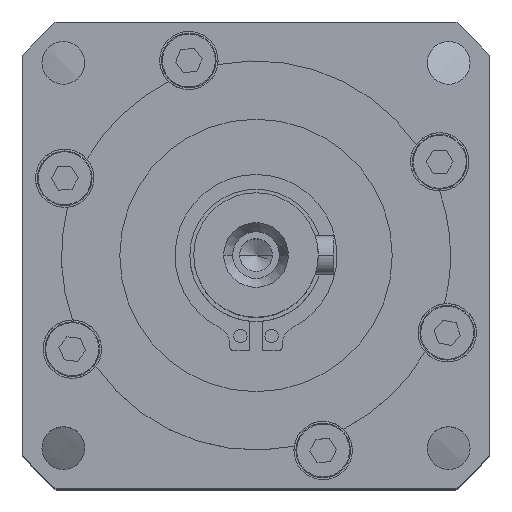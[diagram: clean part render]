
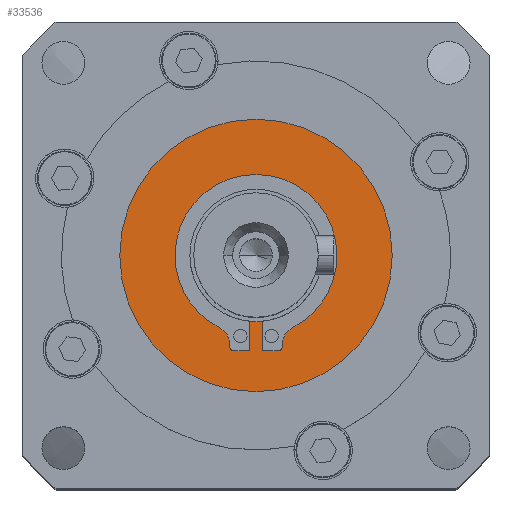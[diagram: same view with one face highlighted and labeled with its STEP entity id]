
A CAD part, top view. The second image highlights one B-rep face of the part: STEP entity #33536.
In plain terms, the highlighted planar face has unit normal (0, 0, 1).
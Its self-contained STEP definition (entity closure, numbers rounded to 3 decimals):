
#525 = EDGE_CURVE ( 'NONE', #19043, #41867, #17624, .T. ) ;
#557 = CARTESIAN_POINT ( 'NONE',  ( -3.35, -11.757, -1. ) ) ;
#741 = VERTEX_POINT ( 'NONE', #804 ) ;
#804 = CARTESIAN_POINT ( 'NONE',  ( 0.85, -12.257, -1. ) ) ;
#1020 = VERTEX_POINT ( 'NONE', #5918 ) ;
#1364 = CIRCLE ( 'NONE', #41935, 2.5 ) ;
#1608 = AXIS2_PLACEMENT_3D ( 'NONE', #32688, #12572, #36069 ) ;
#2597 = VECTOR ( 'NONE', #11955, 1000. ) ;
#2739 = VERTEX_POINT ( 'NONE', #32837 ) ;
#3038 = LINE ( 'NONE', #29043, #20909 ) ;
#3248 = AXIS2_PLACEMENT_3D ( 'NONE', #26736, #6629, #30116 ) ;
#3735 = LINE ( 'NONE', #28515, #28391 ) ;
#4142 = AXIS2_PLACEMENT_3D ( 'NONE', #24686, #4586, #28055 ) ;
#4586 = DIRECTION ( 'NONE',  ( 0., 0., 1. ) ) ;
#5154 = CARTESIAN_POINT ( 'NONE',  ( 0., -12.257, -1. ) ) ;
#5826 = CARTESIAN_POINT ( 'NONE',  ( -17.5, 0., -1. ) ) ;
#5918 = CARTESIAN_POINT ( 'NONE',  ( 0.85, -8.457, -1. ) ) ;
#6347 = EDGE_CURVE ( 'NONE', #16306, #1020, #33229, .T. ) ;
#6629 = DIRECTION ( 'NONE',  ( 0., 0., 1. ) ) ;
#7020 = FACE_OUTER_BOUND ( 'NONE', #35533, .T. ) ;
#7192 = DIRECTION ( 'NONE',  ( 1., 0., 0. ) ) ;
#8446 = PLANE ( 'NONE',  #11639 ) ;
#8504 = EDGE_CURVE ( 'NONE', #41867, #27138, #16314, .T. ) ;
#9342 = CARTESIAN_POINT ( 'NONE',  ( 0., 0., -1. ) ) ;
#9479 = EDGE_CURVE ( 'NONE', #9493, #20783, #19956, .T. ) ;
#9493 = VERTEX_POINT ( 'NONE', #5826 ) ;
#10163 = AXIS2_PLACEMENT_3D ( 'NONE', #13099, #36590, #16500 ) ;
#10489 = ORIENTED_EDGE ( 'NONE', *, *, #31697, .F. ) ;
#10577 = EDGE_CURVE ( 'NONE', #12688, #20540, #3038, .T. ) ;
#11405 = EDGE_LOOP ( 'NONE', ( #29950, #29223, #29712, #33870, #42110, #35805, #36207, #23975, #40214, #21197, #25857, #30477, #23327, #10489 ) ) ;
#11415 = VECTOR ( 'NONE', #25363, 1000. ) ;
#11639 = AXIS2_PLACEMENT_3D ( 'NONE', #38436, #31901, #11820 ) ;
#11820 = DIRECTION ( 'NONE',  ( -1., 0., 0. ) ) ;
#11955 = DIRECTION ( 'NONE',  ( 0., 1., 0. ) ) ;
#12089 = CARTESIAN_POINT ( 'NONE',  ( 5.85, -11.497, -1. ) ) ;
#12344 = ORIENTED_EDGE ( 'NONE', *, *, #9479, .T. ) ;
#12572 = DIRECTION ( 'NONE',  ( 0., 0., 1. ) ) ;
#12587 = DIRECTION ( 'NONE',  ( 0., 0., 1. ) ) ;
#12688 = VERTEX_POINT ( 'NONE', #31674 ) ;
#12737 = DIRECTION ( 'NONE',  ( -1., 0., 0. ) ) ;
#13099 = CARTESIAN_POINT ( 'NONE',  ( 2.85, -11.757, -1. ) ) ;
#13811 = CIRCLE ( 'NONE', #3248, 10.4 ) ;
#14190 = AXIS2_PLACEMENT_3D ( 'NONE', #32704, #12587, #36085 ) ;
#14367 = DIRECTION ( 'NONE',  ( 0., 0., -1. ) ) ;
#14968 = AXIS2_PLACEMENT_3D ( 'NONE', #12089, #35586, #15508 ) ;
#15278 = CARTESIAN_POINT ( 'NONE',  ( -2.85, -11.757, -1. ) ) ;
#15290 = DIRECTION ( 'NONE',  ( 1., 0., 0. ) ) ;
#15508 = DIRECTION ( 'NONE',  ( -1., 0., 0. ) ) ;
#15908 = CARTESIAN_POINT ( 'NONE',  ( 0., 0., -1. ) ) ;
#16306 = VERTEX_POINT ( 'NONE', #41902 ) ;
#16314 = CIRCLE ( 'NONE', #4142, 10.4 ) ;
#16500 = DIRECTION ( 'NONE',  ( -1., 0., 0. ) ) ;
#17282 = CIRCLE ( 'NONE', #14190, 17.5 ) ;
#17624 = CIRCLE ( 'NONE', #21017, 10.4 ) ;
#18468 = CARTESIAN_POINT ( 'NONE',  ( 10.4, 0., -1. ) ) ;
#18665 = DIRECTION ( 'NONE',  ( -1., 0., 0. ) ) ;
#18739 = ORIENTED_EDGE ( 'NONE', *, *, #32697, .T. ) ;
#19043 = VERTEX_POINT ( 'NONE', #18468 ) ;
#19287 = DIRECTION ( 'NONE',  ( -1., 0., 0. ) ) ;
#19699 = CIRCLE ( 'NONE', #14968, 2.5 ) ;
#19813 = EDGE_CURVE ( 'NONE', #2739, #35577, #19699, .T. ) ;
#19956 = CIRCLE ( 'NONE', #1608, 17.5 ) ;
#19966 = CARTESIAN_POINT ( 'NONE',  ( 17.5, 0., -1. ) ) ;
#20400 = LINE ( 'NONE', #21979, #11415 ) ;
#20540 = VERTEX_POINT ( 'NONE', #557 ) ;
#20581 = EDGE_CURVE ( 'NONE', #741, #36490, #26452, .T. ) ;
#20783 = VERTEX_POINT ( 'NONE', #19966 ) ;
#20909 = VECTOR ( 'NONE', #32582, 1000. ) ;
#21017 = AXIS2_PLACEMENT_3D ( 'NONE', #9342, #32839, #12737 ) ;
#21197 = ORIENTED_EDGE ( 'NONE', *, *, #41729, .F. ) ;
#21979 = CARTESIAN_POINT ( 'NONE',  ( 0.85, 0., -1. ) ) ;
#23327 = ORIENTED_EDGE ( 'NONE', *, *, #6347, .F. ) ;
#23657 = EDGE_CURVE ( 'NONE', #20540, #34552, #33453, .T. ) ;
#23975 = ORIENTED_EDGE ( 'NONE', *, *, #19813, .F. ) ;
#24686 = CARTESIAN_POINT ( 'NONE',  ( 0., 0., -1. ) ) ;
#25358 = CARTESIAN_POINT ( 'NONE',  ( -0.85, 0., -1. ) ) ;
#25363 = DIRECTION ( 'NONE',  ( 0., -1., 0. ) ) ;
#25857 = ORIENTED_EDGE ( 'NONE', *, *, #20581, .F. ) ;
#26452 = LINE ( 'NONE', #40986, #42225 ) ;
#26736 = CARTESIAN_POINT ( 'NONE',  ( 0., 0., -1. ) ) ;
#27080 = CIRCLE ( 'NONE', #10163, 0.5 ) ;
#27138 = VERTEX_POINT ( 'NONE', #31121 ) ;
#28055 = DIRECTION ( 'NONE',  ( -1., 0., 0. ) ) ;
#28089 = AXIS2_PLACEMENT_3D ( 'NONE', #15278, #38773, #18665 ) ;
#28391 = VECTOR ( 'NONE', #35286, 1000. ) ;
#28515 = CARTESIAN_POINT ( 'NONE',  ( 3.35, 0., -1. ) ) ;
#29043 = CARTESIAN_POINT ( 'NONE',  ( -3.35, 0., -1. ) ) ;
#29205 = EDGE_CURVE ( 'NONE', #34552, #37454, #30051, .T. ) ;
#29223 = ORIENTED_EDGE ( 'NONE', *, *, #23657, .F. ) ;
#29358 = LINE ( 'NONE', #25358, #2597 ) ;
#29712 = ORIENTED_EDGE ( 'NONE', *, *, #10577, .F. ) ;
#29950 = ORIENTED_EDGE ( 'NONE', *, *, #29205, .F. ) ;
#30051 = LINE ( 'NONE', #5154, #37970 ) ;
#30081 = CARTESIAN_POINT ( 'NONE',  ( -2.85, -12.257, -1. ) ) ;
#30116 = DIRECTION ( 'NONE',  ( -1., 0., 0. ) ) ;
#30326 = EDGE_CURVE ( 'NONE', #34163, #2739, #3735, .T. ) ;
#30477 = ORIENTED_EDGE ( 'NONE', *, *, #38260, .F. ) ;
#31121 = CARTESIAN_POINT ( 'NONE',  ( -4.716, -9.269, -1. ) ) ;
#31674 = CARTESIAN_POINT ( 'NONE',  ( -3.35, -11.497, -1. ) ) ;
#31697 = EDGE_CURVE ( 'NONE', #37454, #16306, #29358, .T. ) ;
#31901 = DIRECTION ( 'NONE',  ( 0., 0., -1. ) ) ;
#32006 = CARTESIAN_POINT ( 'NONE',  ( -0.85, -12.257, -1. ) ) ;
#32582 = DIRECTION ( 'NONE',  ( 0., -1., 0. ) ) ;
#32688 = CARTESIAN_POINT ( 'NONE',  ( 0., 0., -1. ) ) ;
#32697 = EDGE_CURVE ( 'NONE', #20783, #9493, #17282, .T. ) ;
#32704 = CARTESIAN_POINT ( 'NONE',  ( 0., 0., -1. ) ) ;
#32745 = FACE_BOUND ( 'NONE', #11405, .T. ) ;
#32837 = CARTESIAN_POINT ( 'NONE',  ( 3.35, -11.497, -1. ) ) ;
#32839 = DIRECTION ( 'NONE',  ( 0., 0., 1. ) ) ;
#33229 = CIRCLE ( 'NONE', #35564, 8.5 ) ;
#33453 = CIRCLE ( 'NONE', #28089, 0.5 ) ;
#33493 = CARTESIAN_POINT ( 'NONE',  ( 4.716, -9.269, -1. ) ) ;
#33536 = ADVANCED_FACE ( 'NONE', ( #32745, #7020 ), #8446, .F. ) ;
#33870 = ORIENTED_EDGE ( 'NONE', *, *, #41026, .F. ) ;
#34069 = CARTESIAN_POINT ( 'NONE',  ( -10.4, 0., -1. ) ) ;
#34163 = VERTEX_POINT ( 'NONE', #39836 ) ;
#34187 = EDGE_CURVE ( 'NONE', #35577, #19043, #13811, .T. ) ;
#34452 = CARTESIAN_POINT ( 'NONE',  ( -5.85, -11.497, -1. ) ) ;
#34552 = VERTEX_POINT ( 'NONE', #30081 ) ;
#35286 = DIRECTION ( 'NONE',  ( 0., 1., 0. ) ) ;
#35533 = EDGE_LOOP ( 'NONE', ( #18739, #12344 ) ) ;
#35564 = AXIS2_PLACEMENT_3D ( 'NONE', #15908, #39400, #19287 ) ;
#35577 = VERTEX_POINT ( 'NONE', #33493 ) ;
#35586 = DIRECTION ( 'NONE',  ( 0., 0., -1. ) ) ;
#35805 = ORIENTED_EDGE ( 'NONE', *, *, #525, .F. ) ;
#36069 = DIRECTION ( 'NONE',  ( 1., 0., 0. ) ) ;
#36085 = DIRECTION ( 'NONE',  ( 1., 0., 0. ) ) ;
#36207 = ORIENTED_EDGE ( 'NONE', *, *, #34187, .F. ) ;
#36490 = VERTEX_POINT ( 'NONE', #41726 ) ;
#36590 = DIRECTION ( 'NONE',  ( 0., 0., 1. ) ) ;
#37454 = VERTEX_POINT ( 'NONE', #32006 ) ;
#37848 = DIRECTION ( 'NONE',  ( -1., 0., 0. ) ) ;
#37970 = VECTOR ( 'NONE', #15290, 1000. ) ;
#38260 = EDGE_CURVE ( 'NONE', #1020, #741, #20400, .T. ) ;
#38436 = CARTESIAN_POINT ( 'NONE',  ( 0., 0., -1. ) ) ;
#38773 = DIRECTION ( 'NONE',  ( 0., 0., 1. ) ) ;
#39400 = DIRECTION ( 'NONE',  ( 0., 0., 1. ) ) ;
#39836 = CARTESIAN_POINT ( 'NONE',  ( 3.35, -11.757, -1. ) ) ;
#40214 = ORIENTED_EDGE ( 'NONE', *, *, #30326, .F. ) ;
#40986 = CARTESIAN_POINT ( 'NONE',  ( 0., -12.257, -1. ) ) ;
#41026 = EDGE_CURVE ( 'NONE', #27138, #12688, #1364, .T. ) ;
#41726 = CARTESIAN_POINT ( 'NONE',  ( 2.85, -12.257, -1. ) ) ;
#41729 = EDGE_CURVE ( 'NONE', #36490, #34163, #27080, .T. ) ;
#41867 = VERTEX_POINT ( 'NONE', #34069 ) ;
#41902 = CARTESIAN_POINT ( 'NONE',  ( -0.85, -8.457, -1. ) ) ;
#41935 = AXIS2_PLACEMENT_3D ( 'NONE', #34452, #14367, #37848 ) ;
#42110 = ORIENTED_EDGE ( 'NONE', *, *, #8504, .F. ) ;
#42225 = VECTOR ( 'NONE', #7192, 1000. ) ;
